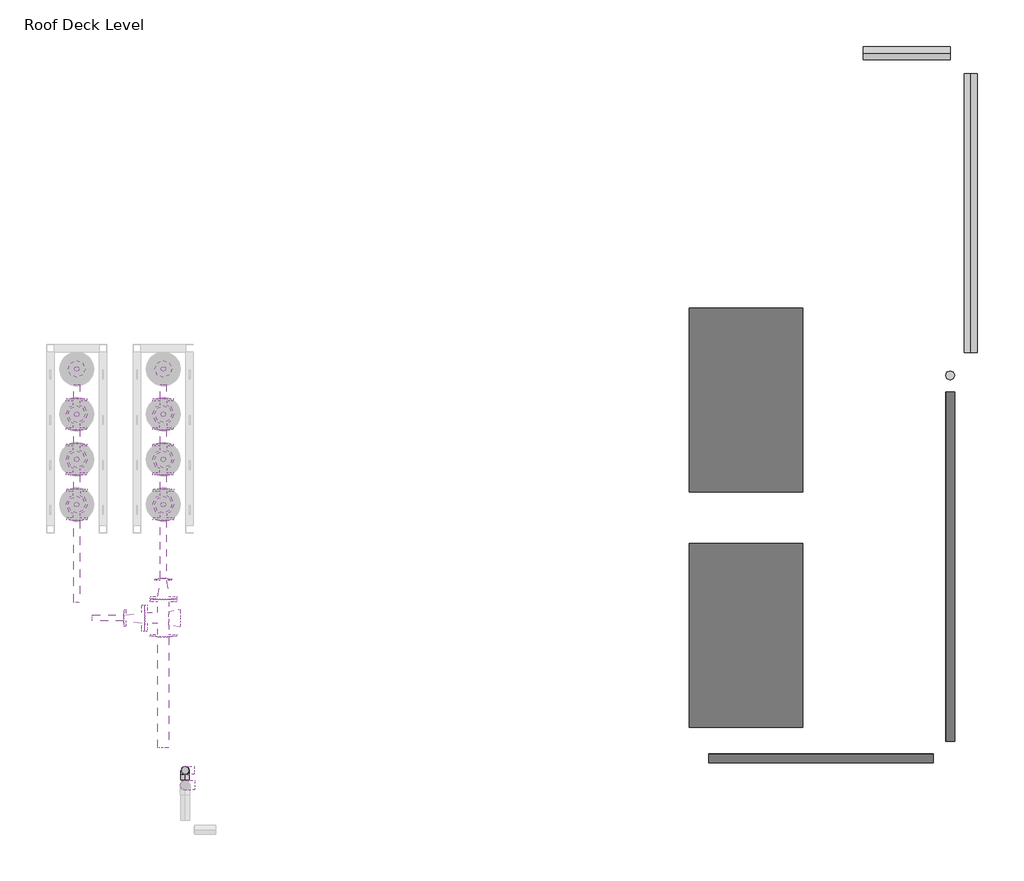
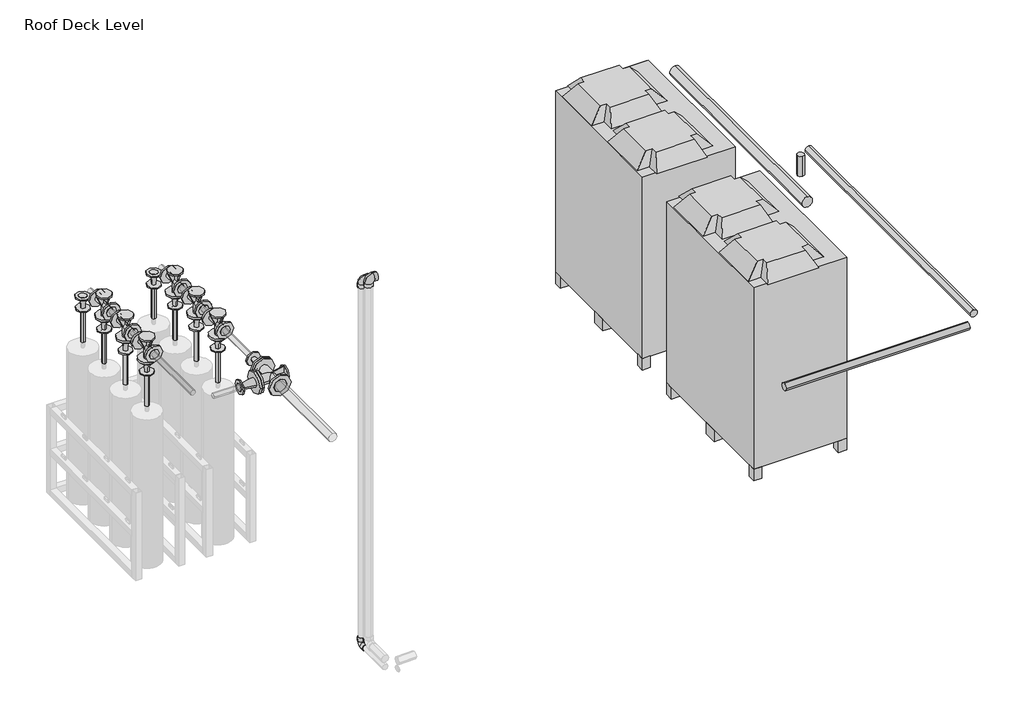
# One storey, part 3 of 3: 23 pipe segments, 20 pipe fittings, 2 proxies.
"""IFC4 building model written with IfcOpenShell, lengths in millimetres."""

from ifc_helpers import new_model, si_unit, point, frame, frame_2d, origin, place, context, project, spatial, circle_curve, trimmed, segment, composite_curve, outline, extrude, transform, mapped, element, save
from components import mechanical_equipment_ce02502f, m_reducer_flanged_cs_class_150_standard_b6b67c23, m_reducer_flanged_cs_class_150_standard_6ae1fdcb, m_reducer_flanged_cs_class_150_standard_777fbdd8, m_tee_round_base_flanged_cs_class_150_standard_9c9133d0, m_tee_round_base_flanged_cs_class_150_standard_f067e6f9, standard_57727813, standard_102e5625

model = new_model("IFC4")

# Units and contexts
model_context = context("Model", 3, world=origin())
ifc_project = project(units=[si_unit("LENGTHUNIT", "METRE", prefix="MILLI")], contexts=[model_context])

# Site, building, storey
site = spatial("IfcSite", under=ifc_project)
building = spatial("IfcBuilding", under=site)
storey = spatial("IfcBuildingStorey", under=building, Name="Roof Deck Level", Elevation=4400.0)

# Proxies
placement = place(None, origin())
mechanical_equipment_shape = mechanical_equipment_ce02502f(model_context)
element("IfcBuildingElementProxy", 1, Name="Condenser-Daikin-RXYQ14-16-18P : RXYQ14P, 400v/50Hz/3Ph", ObjectType="Condenser-Daikin-RXYQ14-16-18P : RXYQ14P, 400v/50Hz/3Ph", at=placement, inside=storey, context=model_context, shape_type="MappedRepresentation", body=[
    mapped(mechanical_equipment_shape, transform((-2047.9099461, 18289.6783949, 4700.0), x_axis=(0.0, 1.0, 0.0), y_axis=(-1.0, 0.0, 0.0), z_axis=(0.0, 0.0, 1.0))),
])
element("IfcBuildingElementProxy", 2, Name="Condenser-Daikin-RXYQ14-16-18P : RXYQ14P, 400v/50Hz/3Ph", ObjectType="Condenser-Daikin-RXYQ14-16-18P : RXYQ14P, 400v/50Hz/3Ph", at=placement, inside=storey, context=model_context, shape_type="MappedRepresentation", body=[
    mapped(mechanical_equipment_shape, transform((-2047.9099461, 16700.904492, 4700.0), x_axis=(0.0, 1.0, 0.0), y_axis=(-1.0, 0.0, 0.0), z_axis=(0.0, 0.0, 1.0))),
])

# Pipe fittings
m_reducer_flanged_cs_class_150_standard_shape = m_reducer_flanged_cs_class_150_standard_b6b67c23(model_context)
element("IfcPipeFitting", 3, ObjectType="M_Reducer - Flanged - CS - Class 150 : Standard", at=placement, inside=storey, context=model_context, shape_type="MappedRepresentation", body=[
    mapped(m_reducer_flanged_cs_class_150_standard_shape, transform((-6562.8546656, 18194.4611936, 6293.9014063), x_axis=(0.0, 0.0, -1.0), y_axis=(0.0, -1.0, 0.0), z_axis=(-1.0, 0.0, 0.0))),
])
element("IfcPipeFitting", 4, ObjectType="M_Reducer - Flanged - CS - Class 150 : Standard", at=placement, inside=storey, context=model_context, shape_type="MappedRepresentation", body=[
    mapped(m_reducer_flanged_cs_class_150_standard_shape, transform((-6562.8546656, 17584.8611936, 6293.9014063), x_axis=(0.0, 0.0, -1.0), y_axis=(0.0, -1.0, 0.0), z_axis=(-1.0, 0.0, 0.0))),
])
element("IfcPipeFitting", 5, ObjectType="M_Reducer - Flanged - CS - Class 150 : Standard", at=placement, inside=storey, context=model_context, shape_type="MappedRepresentation", body=[
    mapped(m_reducer_flanged_cs_class_150_standard_shape, transform((-5978.130502, 18194.4611936, 6293.9014063), x_axis=(0.0, 0.0, -1.0), y_axis=(0.0, -1.0, 0.0), z_axis=(-1.0, 0.0, 0.0))),
])
element("IfcPipeFitting", 6, ObjectType="M_Reducer - Flanged - CS - Class 150 : Standard", at=placement, inside=storey, context=model_context, shape_type="MappedRepresentation", body=[
    mapped(m_reducer_flanged_cs_class_150_standard_shape, transform((-5978.130502, 17584.8611936, 6293.9014063), x_axis=(0.0, 0.0, -1.0), y_axis=(0.0, -1.0, 0.0), z_axis=(-1.0, 0.0, 0.0))),
])
m_reducer_flanged_cs_class_150_standard_2_shape = m_reducer_flanged_cs_class_150_standard_6ae1fdcb(model_context)
element("IfcPipeFitting", 7, ObjectType="M_Reducer - Flanged - CS - Class 150 : Standard", at=placement, inside=storey, context=model_context, shape_type="MappedRepresentation", body=[
    mapped(m_reducer_flanged_cs_class_150_standard_2_shape, transform((-6562.8546656, 18499.2611936, 6293.9014063), x_axis=(0.0, 0.0, -1.0), y_axis=(-1.0, 0.0, 0.0), z_axis=(0.0, 1.0, 0.0))),
])
element("IfcPipeFitting", 8, ObjectType="M_Reducer - Flanged - CS - Class 150 : Standard", at=placement, inside=storey, context=model_context, shape_type="MappedRepresentation", body=[
    mapped(m_reducer_flanged_cs_class_150_standard_2_shape, transform((-6562.8546656, 17889.6611936, 6293.9014063), x_axis=(0.0, 0.0, -1.0), y_axis=(-1.0, 0.0, 0.0), z_axis=(0.0, 1.0, 0.0))),
])
element("IfcPipeFitting", 9, ObjectType="M_Reducer - Flanged - CS - Class 150 : Standard", at=placement, inside=storey, context=model_context, shape_type="MappedRepresentation", body=[
    mapped(m_reducer_flanged_cs_class_150_standard_2_shape, transform((-5978.130502, 18499.2611936, 6293.9014063), x_axis=(0.0, 0.0, -1.0), y_axis=(-1.0, 0.0, 0.0), z_axis=(0.0, 1.0, 0.0))),
])
element("IfcPipeFitting", 10, ObjectType="M_Reducer - Flanged - CS - Class 150 : Standard", at=placement, inside=storey, context=model_context, shape_type="MappedRepresentation", body=[
    mapped(m_reducer_flanged_cs_class_150_standard_2_shape, transform((-5978.130502, 17889.6611936, 6293.9014063), x_axis=(0.0, 0.0, -1.0), y_axis=(-1.0, 0.0, 0.0), z_axis=(0.0, 1.0, 0.0))),
])
m_reducer_flanged_cs_class_150_standard_3_shape = m_reducer_flanged_cs_class_150_standard_777fbdd8(model_context)
element("IfcPipeFitting", 11, ObjectType="M_Reducer - Flanged - CS - Class 150 : Standard", at=placement, inside=storey, context=model_context, shape_type="MappedRepresentation", body=[
    mapped(m_reducer_flanged_cs_class_150_standard_3_shape, transform((-5978.130502, 16945.7625998, 6400.0), x_axis=(0.0, 1.0, 0.0), y_axis=(-1.0, 0.0, 0.0), z_axis=(0.0, 0.0, 1.0))),
])
element("IfcPipeFitting", 12, ObjectType="M_Reducer - Flanged - CS - Class 150 : Standard", at=placement, inside=storey, context=model_context, shape_type="MappedRepresentation", body=[
    mapped(m_reducer_flanged_cs_class_150_standard_3_shape, transform((-6105.130502, 16818.7625998, 6400.0), x_axis=(-1.0, 0.0, 0.0), y_axis=(0.0, -1.0, 0.0), z_axis=(0.0, 0.0, 1.0))),
])
m_tee_round_base_flanged_cs_class_150_standard_shape = m_tee_round_base_flanged_cs_class_150_standard_9c9133d0(model_context)
element("IfcPipeFitting", 13, ObjectType="M_Tee Round Base - Flanged - CS - Class 150 : Standard", at=placement, inside=storey, context=model_context, shape_type="MappedRepresentation", body=[
    mapped(m_tee_round_base_flanged_cs_class_150_standard_shape, transform((-6562.8546656, 18194.4611936, 6400.0), x_axis=(0.0, 1.0, 0.0), y_axis=(0.0, 0.0, 1.0), z_axis=(1.0, 0.0, 0.0))),
])
element("IfcPipeFitting", 14, ObjectType="M_Tee Round Base - Flanged - CS - Class 150 : Standard", at=placement, inside=storey, context=model_context, shape_type="MappedRepresentation", body=[
    mapped(m_tee_round_base_flanged_cs_class_150_standard_shape, transform((-6562.8546656, 17889.6611936, 6400.0), x_axis=(0.0, 1.0, 0.0), y_axis=(0.0, 0.0, 1.0), z_axis=(1.0, 0.0, 0.0))),
])
element("IfcPipeFitting", 15, ObjectType="M_Tee Round Base - Flanged - CS - Class 150 : Standard", at=placement, inside=storey, context=model_context, shape_type="MappedRepresentation", body=[
    mapped(m_tee_round_base_flanged_cs_class_150_standard_shape, transform((-6562.8546656, 17584.8611936, 6400.0), x_axis=(0.0, -1.0, 0.0), y_axis=(0.0, 0.0, 1.0), z_axis=(-1.0, 0.0, 0.0))),
])
element("IfcPipeFitting", 16, ObjectType="M_Tee Round Base - Flanged - CS - Class 150 : Standard", at=placement, inside=storey, context=model_context, shape_type="MappedRepresentation", body=[
    mapped(m_tee_round_base_flanged_cs_class_150_standard_shape, transform((-5978.130502, 18194.4611936, 6400.0), x_axis=(0.0, 1.0, 0.0), y_axis=(0.0, 0.0, 1.0), z_axis=(1.0, 0.0, 0.0))),
])
element("IfcPipeFitting", 17, ObjectType="M_Tee Round Base - Flanged - CS - Class 150 : Standard", at=placement, inside=storey, context=model_context, shape_type="MappedRepresentation", body=[
    mapped(m_tee_round_base_flanged_cs_class_150_standard_shape, transform((-5978.130502, 17889.6611936, 6400.0), x_axis=(0.0, 1.0, 0.0), y_axis=(0.0, 0.0, 1.0), z_axis=(1.0, 0.0, 0.0))),
])
element("IfcPipeFitting", 18, ObjectType="M_Tee Round Base - Flanged - CS - Class 150 : Standard", at=placement, inside=storey, context=model_context, shape_type="MappedRepresentation", body=[
    mapped(m_tee_round_base_flanged_cs_class_150_standard_shape, transform((-5978.130502, 17584.8611936, 6400.0), x_axis=(0.0, -1.0, 0.0), y_axis=(0.0, 0.0, 1.0), z_axis=(-1.0, 0.0, 0.0))),
])
m_tee_round_base_flanged_cs_class_150_standard_2_shape = m_tee_round_base_flanged_cs_class_150_standard_f067e6f9(model_context)
element("IfcPipeFitting", 19, ObjectType="M_Tee Round Base - Flanged - CS - Class 150 : Standard", at=placement, inside=storey, context=model_context, shape_type="MappedRepresentation", body=[
    mapped(m_tee_round_base_flanged_cs_class_150_standard_2_shape, transform((-5978.130502, 16818.7625998, 6400.0), x_axis=(0.0, 1.0, 0.0), y_axis=(1.0, 0.0, 0.0), z_axis=(0.0, 0.0, -1.0))),
])
standard_shape = standard_57727813(model_context)
element("IfcPipeFitting", 20, ObjectType="M_Elbow - CPVC - Sch 40 : Standard", at=placement, inside=storey, context=model_context, shape_type="MappedRepresentation", body=[
    mapped(standard_shape, transform((-5831.0029399, 15689.9865561, 7892.2), x_axis=(0.0, 0.0, 1.0), y_axis=(1.0, 0.0, 0.0), z_axis=(0.0, 1.0, 0.0))),
])
standard_2_shape = standard_102e5625(model_context)
element("IfcPipeFitting", 21, ObjectType="M_Elbow - CPVC - Sch 40 : Standard", at=placement, inside=storey, context=model_context, shape_type="MappedRepresentation", body=[
    mapped(standard_2_shape, transform((-5831.0029399, 15789.9865561, 4650.0), x_axis=(0.0, 1.0, 0.0), y_axis=(0.0, 0.0, 1.0), z_axis=(1.0, 0.0, 0.0))),
])
element("IfcPipeFitting", 22, ObjectType="M_Elbow - CPVC - Sch 40 : Standard", at=placement, inside=storey, context=model_context, shape_type="MappedRepresentation", body=[
    mapped(standard_2_shape, transform((-5831.0029399, 15789.9865561, 7820.0), x_axis=(0.0, 0.0, 1.0), y_axis=(1.0, 0.0, 0.0), z_axis=(0.0, 1.0, 0.0))),
])

# Pipe segments
element("IfcPipeSegment", 23, ObjectType="Steel flanged", at=placement, inside=storey, context=model_context, shape_type="SweptSolid", body=[
    extrude(outline(composite_curve([segment(trimmed(circle_curve(frame_2d((15873.00909, 5600.0)), 30.1625), [point((15842.84659, 5600.0))], [point((15873.00909, 5630.1625))], False, "CARTESIAN"), True, "CONTINUOUS"), segment(trimmed(circle_curve(frame_2d((15873.00909, 5600.0)), 30.1625), [point((15873.00909, 5630.1625))], [point((15903.17159, 5600.0))], False, "CARTESIAN"), True, "CONTINUOUS"), segment(trimmed(circle_curve(frame_2d((15873.00909, 5600.0)), 30.1625), [point((15903.17159, 5600.0))], [point((15873.00909, 5569.8375))], False, "CARTESIAN"), True, "CONTINUOUS"), segment(trimmed(circle_curve(frame_2d((15873.00909, 5600.0)), 30.1625), [point((15873.00909, 5569.8375))], [point((15842.84659, 5600.0))], False, "CARTESIAN"), True, "CONTINUOUS")], self_intersect=False)), frame((-2299.9259545, 0.0, 0.0), z_axis=(1.0, 0.0, 0.0), x_axis=(0.0, 1.0, 0.0)), (0.0, 0.0, 1.0), 1514.9761631),
])
element("IfcPipeSegment", 24, ObjectType="Steel flanged", at=placement, inside=storey, context=model_context, shape_type="SweptSolid", body=[
    extrude(outline(composite_curve([segment(trimmed(circle_curve(frame_2d((5600.0, -670.9497913)), 30.1625), [point((5600.0, -640.7872913))], [point((5630.1625, -670.9497913))], False, "CARTESIAN"), True, "CONTINUOUS"), segment(trimmed(circle_curve(frame_2d((5600.0, -670.9497913)), 30.1625), [point((5630.1625, -670.9497913))], [point((5600.0, -701.1122913))], False, "CARTESIAN"), True, "CONTINUOUS"), segment(trimmed(circle_curve(frame_2d((5600.0, -670.9497913)), 30.1625), [point((5600.0, -701.1122913))], [point((5569.8375, -670.9497913))], False, "CARTESIAN"), True, "CONTINUOUS"), segment(trimmed(circle_curve(frame_2d((5600.0, -670.9497913)), 30.1625), [point((5569.8375, -670.9497913))], [point((5600.0, -640.7872913))], False, "CARTESIAN"), True, "CONTINUOUS")], self_intersect=False)), frame((0.0, 15987.00909, 0.0), z_axis=(0.0, 1.0, 0.0), x_axis=(0.0, 0.0, 1.0)), (0.0, 0.0, 1.0), 2355.7102903),
])
element("IfcPipeSegment", 25, ObjectType="Steel flanged", at=placement, inside=storey, context=model_context, shape_type="SweptSolid", body=[
    extrude(outline(composite_curve([segment(trimmed(circle_curve(frame_2d((-670.9497913, 18456.7193803)), 30.1625), [point((-701.1122913, 18456.7193803))], [point((-670.9497913, 18486.8818803))], False, "CARTESIAN"), True, "CONTINUOUS"), segment(trimmed(circle_curve(frame_2d((-670.9497913, 18456.7193803)), 30.1625), [point((-670.9497913, 18486.8818803))], [point((-640.7872913, 18456.7193803))], False, "CARTESIAN"), True, "CONTINUOUS"), segment(trimmed(circle_curve(frame_2d((-670.9497913, 18456.7193803)), 30.1625), [point((-640.7872913, 18456.7193803))], [point((-670.9497913, 18426.5568803))], False, "CARTESIAN"), True, "CONTINUOUS"), segment(trimmed(circle_curve(frame_2d((-670.9497913, 18456.7193803)), 30.1625), [point((-670.9497913, 18426.5568803))], [point((-701.1122913, 18456.7193803))], False, "CARTESIAN"), True, "CONTINUOUS")], self_intersect=False)), frame((0.0, 0.0, 5312.0), z_axis=(0.0, 0.0, 1.0), x_axis=(1.0, 0.0, 0.0)), (0.0, 0.0, 1.0), 174.0),
])
element("IfcPipeSegment", 26, ObjectType="Steel flanged", at=placement, inside=storey, context=model_context, shape_type="SweptSolid", body=[
    extrude(outline(composite_curve([segment(trimmed(circle_curve(frame_2d((4931.0, -531.2497913)), 44.45), [point((4931.0, -486.7997913))], [point((4975.45, -531.2497913))], False, "CARTESIAN"), True, "CONTINUOUS"), segment(trimmed(circle_curve(frame_2d((4931.0, -531.2497913)), 44.45), [point((4975.45, -531.2497913))], [point((4931.0, -575.6997913))], False, "CARTESIAN"), True, "CONTINUOUS"), segment(trimmed(circle_curve(frame_2d((4931.0, -531.2497913)), 44.45), [point((4931.0, -575.6997913))], [point((4886.55, -531.2497913))], False, "CARTESIAN"), True, "CONTINUOUS"), segment(trimmed(circle_curve(frame_2d((4931.0, -531.2497913)), 44.45), [point((4886.55, -531.2497913))], [point((4931.0, -486.7997913))], False, "CARTESIAN"), True, "CONTINUOUS")], self_intersect=False)), frame((0.0, 18609.1193803, 0.0), z_axis=(0.0, 1.0, 0.0), x_axis=(0.0, 0.0, 1.0)), (0.0, 0.0, 1.0), 1882.4573069),
])
element("IfcPipeSegment", 27, ObjectType="Steel flanged", at=placement, inside=storey, context=model_context, shape_type="SweptSolid", body=[
    extrude(outline(composite_curve([segment(trimmed(circle_curve(frame_2d((20631.5766872, 4931.0)), 44.45), [point((20676.0266872, 4931.0))], [point((20631.5766872, 4886.55))], False, "CARTESIAN"), True, "CONTINUOUS"), segment(trimmed(circle_curve(frame_2d((20631.5766872, 4931.0)), 44.45), [point((20631.5766872, 4886.55))], [point((20587.1266872, 4931.0))], False, "CARTESIAN"), True, "CONTINUOUS"), segment(trimmed(circle_curve(frame_2d((20631.5766872, 4931.0)), 44.45), [point((20587.1266872, 4931.0))], [point((20631.5766872, 4975.45))], False, "CARTESIAN"), True, "CONTINUOUS"), segment(trimmed(circle_curve(frame_2d((20631.5766872, 4931.0)), 44.45), [point((20631.5766872, 4975.45))], [point((20676.0266872, 4931.0))], False, "CARTESIAN"), True, "CONTINUOUS")], self_intersect=False)), frame((-1257.5752057, 0.0, 0.0), z_axis=(1.0, 0.0, 0.0), x_axis=(0.0, 1.0, 0.0)), (0.0, 0.0, 1.0), 586.3254144),
])
element("IfcPipeSegment", 28, ObjectType="Steel flanged", at=placement, inside=storey, context=model_context, shape_type="SweptSolid", body=[
    extrude(outline(composite_curve([segment(trimmed(circle_curve(frame_2d((-6562.8546656, 17584.8611936)), 16.7005), [point((-6579.5551656, 17584.8611936))], [point((-6562.8546656, 17601.5616936))], False, "CARTESIAN"), True, "CONTINUOUS"), segment(trimmed(circle_curve(frame_2d((-6562.8546656, 17584.8611936)), 16.7005), [point((-6562.8546656, 17601.5616936))], [point((-6546.1541656, 17584.8611936))], False, "CARTESIAN"), True, "CONTINUOUS"), segment(trimmed(circle_curve(frame_2d((-6562.8546656, 17584.8611936)), 16.7005), [point((-6546.1541656, 17584.8611936))], [point((-6562.8546656, 17568.1606936))], False, "CARTESIAN"), True, "CONTINUOUS"), segment(trimmed(circle_curve(frame_2d((-6562.8546656, 17584.8611936)), 16.7005), [point((-6562.8546656, 17568.1606936))], [point((-6579.5551656, 17584.8611936))], False, "CARTESIAN"), True, "CONTINUOUS")], self_intersect=False)), frame((0.0, 0.0, 5895.4), z_axis=(0.0, 0.0, 1.0), x_axis=(1.0, 0.0, 0.0)), (0.0, 0.0, 1.0), 284.5014063),
])
element("IfcPipeSegment", 29, ObjectType="Steel flanged", at=placement, inside=storey, context=model_context, shape_type="SweptSolid", body=[
    extrude(outline(composite_curve([segment(trimmed(circle_curve(frame_2d((6400.0, -6562.8546656)), 21.082), [point((6400.0, -6583.9366656))], [point((6378.918, -6562.8546656))], False, "CARTESIAN"), True, "CONTINUOUS"), segment(trimmed(circle_curve(frame_2d((6400.0, -6562.8546656)), 21.082), [point((6378.918, -6562.8546656))], [point((6400.0, -6541.7726656))], False, "CARTESIAN"), True, "CONTINUOUS"), segment(trimmed(circle_curve(frame_2d((6400.0, -6562.8546656)), 21.082), [point((6400.0, -6541.7726656))], [point((6421.082, -6562.8546656))], False, "CARTESIAN"), True, "CONTINUOUS"), segment(trimmed(circle_curve(frame_2d((6400.0, -6562.8546656)), 21.082), [point((6421.082, -6562.8546656))], [point((6400.0, -6583.9366656))], False, "CARTESIAN"), True, "CONTINUOUS")], self_intersect=False)), frame((0.0, 17690.9597873, 0.0), z_axis=(0.0, 1.0, 0.0), x_axis=(0.0, 0.0, 1.0)), (0.0, 0.0, 1.0), 92.6028125),
])
element("IfcPipeSegment", 30, ObjectType="Steel flanged", at=placement, inside=storey, context=model_context, shape_type="SweptSolid", body=[
    extrude(outline(composite_curve([segment(trimmed(circle_curve(frame_2d((-6562.8546656, 18499.2611936)), 16.7005), [point((-6579.5551656, 18499.2611936))], [point((-6562.8546656, 18515.9616936))], False, "CARTESIAN"), True, "CONTINUOUS"), segment(trimmed(circle_curve(frame_2d((-6562.8546656, 18499.2611936)), 16.7005), [point((-6562.8546656, 18515.9616936))], [point((-6546.1541656, 18499.2611936))], False, "CARTESIAN"), True, "CONTINUOUS"), segment(trimmed(circle_curve(frame_2d((-6562.8546656, 18499.2611936)), 16.7005), [point((-6546.1541656, 18499.2611936))], [point((-6562.8546656, 18482.5606936))], False, "CARTESIAN"), True, "CONTINUOUS"), segment(trimmed(circle_curve(frame_2d((-6562.8546656, 18499.2611936)), 16.7005), [point((-6562.8546656, 18482.5606936))], [point((-6579.5551656, 18499.2611936))], False, "CARTESIAN"), True, "CONTINUOUS")], self_intersect=False)), frame((0.0, 0.0, 5895.4), z_axis=(0.0, 0.0, 1.0), x_axis=(1.0, 0.0, 0.0)), (0.0, 0.0, 1.0), 284.5014063),
])
element("IfcPipeSegment", 31, ObjectType="Steel flanged", at=placement, inside=storey, context=model_context, shape_type="SweptSolid", body=[
    extrude(outline(composite_curve([segment(trimmed(circle_curve(frame_2d((6400.0, -6562.8546656)), 21.082), [point((6400.0, -6583.9366656))], [point((6378.918, -6562.8546656))], False, "CARTESIAN"), True, "CONTINUOUS"), segment(trimmed(circle_curve(frame_2d((6400.0, -6562.8546656)), 21.082), [point((6378.918, -6562.8546656))], [point((6400.0, -6541.7726656))], False, "CARTESIAN"), True, "CONTINUOUS"), segment(trimmed(circle_curve(frame_2d((6400.0, -6562.8546656)), 21.082), [point((6400.0, -6541.7726656))], [point((6421.082, -6562.8546656))], False, "CARTESIAN"), True, "CONTINUOUS"), segment(trimmed(circle_curve(frame_2d((6400.0, -6562.8546656)), 21.082), [point((6421.082, -6562.8546656))], [point((6400.0, -6583.9366656))], False, "CARTESIAN"), True, "CONTINUOUS")], self_intersect=False)), frame((0.0, 18300.5597873, 0.0), z_axis=(0.0, 1.0, 0.0), x_axis=(0.0, 0.0, 1.0)), (0.0, 0.0, 1.0), 92.6028125),
])
element("IfcPipeSegment", 32, ObjectType="Steel flanged", at=placement, inside=storey, context=model_context, shape_type="SweptSolid", body=[
    extrude(outline(composite_curve([segment(trimmed(circle_curve(frame_2d((-6562.8546656, 18194.4611936)), 16.7005), [point((-6579.5551656, 18194.4611936))], [point((-6562.8546656, 18211.1616936))], False, "CARTESIAN"), True, "CONTINUOUS"), segment(trimmed(circle_curve(frame_2d((-6562.8546656, 18194.4611936)), 16.7005), [point((-6562.8546656, 18211.1616936))], [point((-6546.1541656, 18194.4611936))], False, "CARTESIAN"), True, "CONTINUOUS"), segment(trimmed(circle_curve(frame_2d((-6562.8546656, 18194.4611936)), 16.7005), [point((-6546.1541656, 18194.4611936))], [point((-6562.8546656, 18177.7606936))], False, "CARTESIAN"), True, "CONTINUOUS"), segment(trimmed(circle_curve(frame_2d((-6562.8546656, 18194.4611936)), 16.7005), [point((-6562.8546656, 18177.7606936))], [point((-6579.5551656, 18194.4611936))], False, "CARTESIAN"), True, "CONTINUOUS")], self_intersect=False)), frame((0.0, 0.0, 5895.4), z_axis=(0.0, 0.0, 1.0), x_axis=(1.0, 0.0, 0.0)), (0.0, 0.0, 1.0), 284.5014063),
])
element("IfcPipeSegment", 33, ObjectType="Steel flanged", at=placement, inside=storey, context=model_context, shape_type="SweptSolid", body=[
    extrude(outline(composite_curve([segment(trimmed(circle_curve(frame_2d((6400.0, -6562.8546656)), 21.082), [point((6400.0, -6583.9366656))], [point((6378.918, -6562.8546656))], False, "CARTESIAN"), True, "CONTINUOUS"), segment(trimmed(circle_curve(frame_2d((6400.0, -6562.8546656)), 21.082), [point((6378.918, -6562.8546656))], [point((6400.0, -6541.7726656))], False, "CARTESIAN"), True, "CONTINUOUS"), segment(trimmed(circle_curve(frame_2d((6400.0, -6562.8546656)), 21.082), [point((6400.0, -6541.7726656))], [point((6421.082, -6562.8546656))], False, "CARTESIAN"), True, "CONTINUOUS"), segment(trimmed(circle_curve(frame_2d((6400.0, -6562.8546656)), 21.082), [point((6421.082, -6562.8546656))], [point((6400.0, -6583.9366656))], False, "CARTESIAN"), True, "CONTINUOUS")], self_intersect=False)), frame((0.0, 17995.7597873, 0.0), z_axis=(0.0, 1.0, 0.0), x_axis=(0.0, 0.0, 1.0)), (0.0, 0.0, 1.0), 92.6028125),
])
element("IfcPipeSegment", 34, ObjectType="Steel flanged", at=placement, inside=storey, context=model_context, shape_type="SweptSolid", body=[
    extrude(outline(composite_curve([segment(trimmed(circle_curve(frame_2d((-6562.8546656, 17889.6611936)), 16.7005), [point((-6579.5551656, 17889.6611936))], [point((-6562.8546656, 17906.3616936))], False, "CARTESIAN"), True, "CONTINUOUS"), segment(trimmed(circle_curve(frame_2d((-6562.8546656, 17889.6611936)), 16.7005), [point((-6562.8546656, 17906.3616936))], [point((-6546.1541656, 17889.6611936))], False, "CARTESIAN"), True, "CONTINUOUS"), segment(trimmed(circle_curve(frame_2d((-6562.8546656, 17889.6611936)), 16.7005), [point((-6546.1541656, 17889.6611936))], [point((-6562.8546656, 17872.9606936))], False, "CARTESIAN"), True, "CONTINUOUS"), segment(trimmed(circle_curve(frame_2d((-6562.8546656, 17889.6611936)), 16.7005), [point((-6562.8546656, 17872.9606936))], [point((-6579.5551656, 17889.6611936))], False, "CARTESIAN"), True, "CONTINUOUS")], self_intersect=False)), frame((0.0, 0.0, 5895.4), z_axis=(0.0, 0.0, 1.0), x_axis=(1.0, 0.0, 0.0)), (0.0, 0.0, 1.0), 284.5014063),
])
element("IfcPipeSegment", 35, ObjectType="Steel flanged", at=placement, inside=storey, context=model_context, shape_type="SweptSolid", body=[
    extrude(outline(composite_curve([segment(trimmed(circle_curve(frame_2d((6400.0, -6562.8546656)), 21.082), [point((6400.0, -6583.9366656))], [point((6378.918, -6562.8546656))], False, "CARTESIAN"), True, "CONTINUOUS"), segment(trimmed(circle_curve(frame_2d((6400.0, -6562.8546656)), 21.082), [point((6378.918, -6562.8546656))], [point((6400.0, -6541.7726656))], False, "CARTESIAN"), True, "CONTINUOUS"), segment(trimmed(circle_curve(frame_2d((6400.0, -6562.8546656)), 21.082), [point((6400.0, -6541.7726656))], [point((6421.082, -6562.8546656))], False, "CARTESIAN"), True, "CONTINUOUS"), segment(trimmed(circle_curve(frame_2d((6400.0, -6562.8546656)), 21.082), [point((6421.082, -6562.8546656))], [point((6400.0, -6583.9366656))], False, "CARTESIAN"), True, "CONTINUOUS")], self_intersect=False)), frame((0.0, 16924.8611936, 0.0), z_axis=(0.0, 1.0, 0.0), x_axis=(0.0, 0.0, 1.0)), (0.0, 0.0, 1.0), 553.9014063),
])
element("IfcPipeSegment", 36, ObjectType="Steel flanged", at=placement, inside=storey, context=model_context, shape_type="SweptSolid", body=[
    extrude(outline(composite_curve([segment(trimmed(circle_curve(frame_2d((6400.0, -5978.130502)), 21.082), [point((6400.0, -5999.212502))], [point((6378.918, -5978.130502))], False, "CARTESIAN"), True, "CONTINUOUS"), segment(trimmed(circle_curve(frame_2d((6400.0, -5978.130502)), 21.082), [point((6378.918, -5978.130502))], [point((6400.0, -5957.048502))], False, "CARTESIAN"), True, "CONTINUOUS"), segment(trimmed(circle_curve(frame_2d((6400.0, -5978.130502)), 21.082), [point((6400.0, -5957.048502))], [point((6421.082, -5978.130502))], False, "CARTESIAN"), True, "CONTINUOUS"), segment(trimmed(circle_curve(frame_2d((6400.0, -5978.130502)), 21.082), [point((6421.082, -5978.130502))], [point((6400.0, -5999.212502))], False, "CARTESIAN"), True, "CONTINUOUS")], self_intersect=False)), frame((0.0, 17690.9597873, 0.0), z_axis=(0.0, 1.0, 0.0), x_axis=(0.0, 0.0, 1.0)), (0.0, 0.0, 1.0), 92.6028125),
])
element("IfcPipeSegment", 37, ObjectType="Steel flanged", at=placement, inside=storey, context=model_context, shape_type="SweptSolid", body=[
    extrude(outline(composite_curve([segment(trimmed(circle_curve(frame_2d((6400.0, -5978.130502)), 21.082), [point((6400.0, -5999.212502))], [point((6378.918, -5978.130502))], False, "CARTESIAN"), True, "CONTINUOUS"), segment(trimmed(circle_curve(frame_2d((6400.0, -5978.130502)), 21.082), [point((6378.918, -5978.130502))], [point((6400.0, -5957.048502))], False, "CARTESIAN"), True, "CONTINUOUS"), segment(trimmed(circle_curve(frame_2d((6400.0, -5978.130502)), 21.082), [point((6400.0, -5957.048502))], [point((6421.082, -5978.130502))], False, "CARTESIAN"), True, "CONTINUOUS"), segment(trimmed(circle_curve(frame_2d((6400.0, -5978.130502)), 21.082), [point((6421.082, -5978.130502))], [point((6400.0, -5999.212502))], False, "CARTESIAN"), True, "CONTINUOUS")], self_intersect=False)), frame((0.0, 18300.5597873, 0.0), z_axis=(0.0, 1.0, 0.0), x_axis=(0.0, 0.0, 1.0)), (0.0, 0.0, 1.0), 92.6028125),
])
element("IfcPipeSegment", 38, ObjectType="Steel flanged", at=placement, inside=storey, context=model_context, shape_type="SweptSolid", body=[
    extrude(outline(composite_curve([segment(trimmed(circle_curve(frame_2d((6400.0, -5978.130502)), 21.082), [point((6400.0, -5999.212502))], [point((6378.918, -5978.130502))], False, "CARTESIAN"), True, "CONTINUOUS"), segment(trimmed(circle_curve(frame_2d((6400.0, -5978.130502)), 21.082), [point((6378.918, -5978.130502))], [point((6400.0, -5957.048502))], False, "CARTESIAN"), True, "CONTINUOUS"), segment(trimmed(circle_curve(frame_2d((6400.0, -5978.130502)), 21.082), [point((6400.0, -5957.048502))], [point((6421.082, -5978.130502))], False, "CARTESIAN"), True, "CONTINUOUS"), segment(trimmed(circle_curve(frame_2d((6400.0, -5978.130502)), 21.082), [point((6421.082, -5978.130502))], [point((6400.0, -5999.212502))], False, "CARTESIAN"), True, "CONTINUOUS")], self_intersect=False)), frame((0.0, 17995.7597873, 0.0), z_axis=(0.0, 1.0, 0.0), x_axis=(0.0, 0.0, 1.0)), (0.0, 0.0, 1.0), 92.6028125),
])
element("IfcPipeSegment", 39, ObjectType="Steel flanged", at=placement, inside=storey, context=model_context, shape_type="SweptSolid", body=[
    extrude(outline(composite_curve([segment(trimmed(circle_curve(frame_2d((6400.0, -5978.130502)), 36.5125), [point((6400.0, -6014.643002))], [point((6363.4875, -5978.130502))], False, "CARTESIAN"), True, "CONTINUOUS"), segment(trimmed(circle_curve(frame_2d((6400.0, -5978.130502)), 36.5125), [point((6363.4875, -5978.130502))], [point((6400.0, -5941.618002))], False, "CARTESIAN"), True, "CONTINUOUS"), segment(trimmed(circle_curve(frame_2d((6400.0, -5978.130502)), 36.5125), [point((6400.0, -5941.618002))], [point((6436.5125, -5978.130502))], False, "CARTESIAN"), True, "CONTINUOUS"), segment(trimmed(circle_curve(frame_2d((6400.0, -5978.130502)), 36.5125), [point((6436.5125, -5978.130502))], [point((6400.0, -6014.643002))], False, "CARTESIAN"), True, "CONTINUOUS")], self_intersect=False)), frame((0.0, 15943.5004828, 0.0), z_axis=(0.0, 1.0, 0.0), x_axis=(0.0, 0.0, 1.0)), (0.0, 0.0, 1.0), 748.262117),
])
element("IfcPipeSegment", 40, ObjectType="Steel flanged", at=placement, inside=storey, context=model_context, shape_type="SweptSolid", body=[
    extrude(outline(composite_curve([segment(trimmed(circle_curve(frame_2d((-5978.130502, 18499.2611936)), 16.7005), [point((-5961.430002, 18499.2611936))], [point((-5978.130502, 18482.5606936))], False, "CARTESIAN"), True, "CONTINUOUS"), segment(trimmed(circle_curve(frame_2d((-5978.130502, 18499.2611936)), 16.7005), [point((-5978.130502, 18482.5606936))], [point((-5994.831002, 18499.2611936))], False, "CARTESIAN"), True, "CONTINUOUS"), segment(trimmed(circle_curve(frame_2d((-5978.130502, 18499.2611936)), 16.7005), [point((-5994.831002, 18499.2611936))], [point((-5978.130502, 18515.9616936))], False, "CARTESIAN"), True, "CONTINUOUS"), segment(trimmed(circle_curve(frame_2d((-5978.130502, 18499.2611936)), 16.7005), [point((-5978.130502, 18515.9616936))], [point((-5961.430002, 18499.2611936))], False, "CARTESIAN"), True, "CONTINUOUS")], self_intersect=False)), frame((0.0, 0.0, 5895.4), z_axis=(0.0, 0.0, 1.0), x_axis=(1.0, 0.0, 0.0)), (0.0, 0.0, 1.0), 284.5014063),
])
element("IfcPipeSegment", 41, ObjectType="Steel flanged", at=placement, inside=storey, context=model_context, shape_type="SweptSolid", body=[
    extrude(outline(composite_curve([segment(trimmed(circle_curve(frame_2d((-5978.130502, 18194.4611936)), 16.7005), [point((-5961.430002, 18194.4611936))], [point((-5978.130502, 18177.7606936))], False, "CARTESIAN"), True, "CONTINUOUS"), segment(trimmed(circle_curve(frame_2d((-5978.130502, 18194.4611936)), 16.7005), [point((-5978.130502, 18177.7606936))], [point((-5994.831002, 18194.4611936))], False, "CARTESIAN"), True, "CONTINUOUS"), segment(trimmed(circle_curve(frame_2d((-5978.130502, 18194.4611936)), 16.7005), [point((-5994.831002, 18194.4611936))], [point((-5978.130502, 18211.1616936))], False, "CARTESIAN"), True, "CONTINUOUS"), segment(trimmed(circle_curve(frame_2d((-5978.130502, 18194.4611936)), 16.7005), [point((-5978.130502, 18211.1616936))], [point((-5961.430002, 18194.4611936))], False, "CARTESIAN"), True, "CONTINUOUS")], self_intersect=False)), frame((0.0, 0.0, 5895.4), z_axis=(0.0, 0.0, 1.0), x_axis=(1.0, 0.0, 0.0)), (0.0, 0.0, 1.0), 284.5014063),
])
element("IfcPipeSegment", 42, ObjectType="Steel flanged", at=placement, inside=storey, context=model_context, shape_type="SweptSolid", body=[
    extrude(outline(composite_curve([segment(trimmed(circle_curve(frame_2d((-5978.130502, 17889.6611936)), 16.7005), [point((-5961.430002, 17889.6611936))], [point((-5978.130502, 17872.9606936))], False, "CARTESIAN"), True, "CONTINUOUS"), segment(trimmed(circle_curve(frame_2d((-5978.130502, 17889.6611936)), 16.7005), [point((-5978.130502, 17872.9606936))], [point((-5994.831002, 17889.6611936))], False, "CARTESIAN"), True, "CONTINUOUS"), segment(trimmed(circle_curve(frame_2d((-5978.130502, 17889.6611936)), 16.7005), [point((-5994.831002, 17889.6611936))], [point((-5978.130502, 17906.3616936))], False, "CARTESIAN"), True, "CONTINUOUS"), segment(trimmed(circle_curve(frame_2d((-5978.130502, 17889.6611936)), 16.7005), [point((-5978.130502, 17906.3616936))], [point((-5961.430002, 17889.6611936))], False, "CARTESIAN"), True, "CONTINUOUS")], self_intersect=False)), frame((0.0, 0.0, 5895.4), z_axis=(0.0, 0.0, 1.0), x_axis=(1.0, 0.0, 0.0)), (0.0, 0.0, 1.0), 284.5014063),
])
element("IfcPipeSegment", 43, ObjectType="Steel flanged", at=placement, inside=storey, context=model_context, shape_type="SweptSolid", body=[
    extrude(outline(composite_curve([segment(trimmed(circle_curve(frame_2d((-5978.130502, 17584.8611936)), 16.7005), [point((-5961.430002, 17584.8611936))], [point((-5978.130502, 17568.1606936))], False, "CARTESIAN"), True, "CONTINUOUS"), segment(trimmed(circle_curve(frame_2d((-5978.130502, 17584.8611936)), 16.7005), [point((-5978.130502, 17568.1606936))], [point((-5994.831002, 17584.8611936))], False, "CARTESIAN"), True, "CONTINUOUS"), segment(trimmed(circle_curve(frame_2d((-5978.130502, 17584.8611936)), 16.7005), [point((-5994.831002, 17584.8611936))], [point((-5978.130502, 17601.5616936))], False, "CARTESIAN"), True, "CONTINUOUS"), segment(trimmed(circle_curve(frame_2d((-5978.130502, 17584.8611936)), 16.7005), [point((-5978.130502, 17601.5616936))], [point((-5961.430002, 17584.8611936))], False, "CARTESIAN"), True, "CONTINUOUS")], self_intersect=False)), frame((0.0, 0.0, 5895.4), z_axis=(0.0, 0.0, 1.0), x_axis=(1.0, 0.0, 0.0)), (0.0, 0.0, 1.0), 284.5014063),
])
element("IfcPipeSegment", 44, ObjectType="Steel flanged", at=placement, inside=storey, context=model_context, shape_type="SweptSolid", body=[
    extrude(outline(composite_curve([segment(trimmed(circle_curve(frame_2d((16818.7625998, 6400.0)), 21.082), [point((16839.8445998, 6400.0))], [point((16818.7625998, 6378.918))], False, "CARTESIAN"), True, "CONTINUOUS"), segment(trimmed(circle_curve(frame_2d((16818.7625998, 6400.0)), 21.082), [point((16818.7625998, 6378.918))], [point((16797.6805998, 6400.0))], False, "CARTESIAN"), True, "CONTINUOUS"), segment(trimmed(circle_curve(frame_2d((16818.7625998, 6400.0)), 21.082), [point((16797.6805998, 6400.0))], [point((16818.7625998, 6421.082))], False, "CARTESIAN"), True, "CONTINUOUS"), segment(trimmed(circle_curve(frame_2d((16818.7625998, 6400.0)), 21.082), [point((16818.7625998, 6421.082))], [point((16839.8445998, 6400.0))], False, "CARTESIAN"), True, "CONTINUOUS")], self_intersect=False)), frame((-6456.7560718, 0.0, 0.0), z_axis=(1.0, 0.0, 0.0), x_axis=(0.0, 1.0, 0.0)), (0.0, 0.0, 1.0), 211.6255698),
])
element("IfcPipeSegment", 45, ObjectType="Steel flanged", at=placement, inside=storey, context=model_context, shape_type="SweptSolid", body=[
    extrude(outline(composite_curve([segment(trimmed(circle_curve(frame_2d((6400.0, -5978.130502)), 21.082), [point((6400.0, -5999.212502))], [point((6378.918, -5978.130502))], False, "CARTESIAN"), True, "CONTINUOUS"), segment(trimmed(circle_curve(frame_2d((6400.0, -5978.130502)), 21.082), [point((6378.918, -5978.130502))], [point((6400.0, -5957.048502))], False, "CARTESIAN"), True, "CONTINUOUS"), segment(trimmed(circle_curve(frame_2d((6400.0, -5978.130502)), 21.082), [point((6400.0, -5957.048502))], [point((6421.082, -5978.130502))], False, "CARTESIAN"), True, "CONTINUOUS"), segment(trimmed(circle_curve(frame_2d((6400.0, -5978.130502)), 21.082), [point((6421.082, -5978.130502))], [point((6400.0, -5999.212502))], False, "CARTESIAN"), True, "CONTINUOUS")], self_intersect=False)), frame((0.0, 17085.7625998, 0.0), z_axis=(0.0, 1.0, 0.0), x_axis=(0.0, 0.0, 1.0)), (0.0, 0.0, 1.0), 393.0),
])

save(model, "model.ifc")
